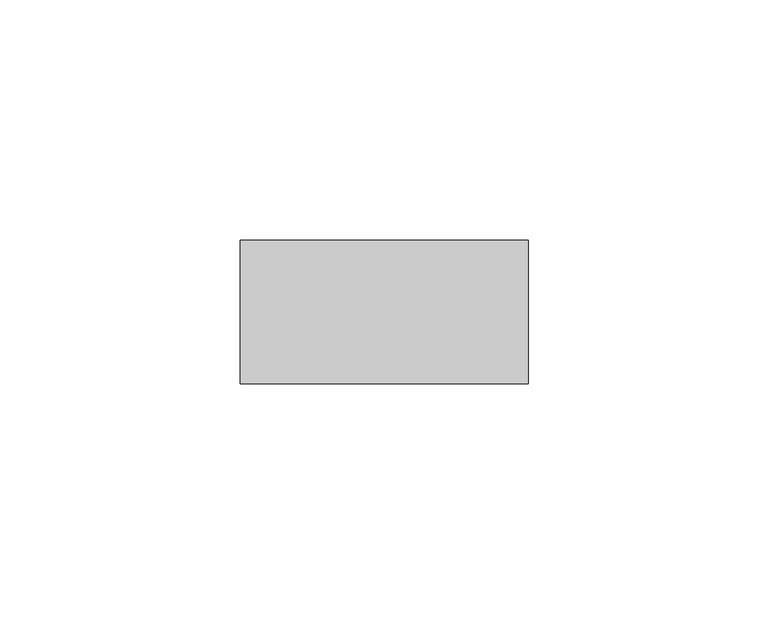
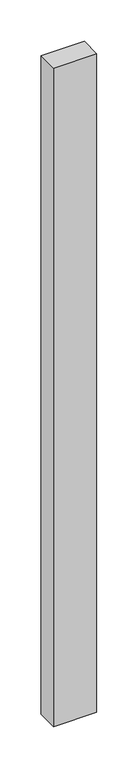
"""IFC4 building model written with IfcOpenShell, lengths in millimetres: member geometry, Прямоугольный импост : Квадрат 30 мм."""

from ifc_helpers import new_model, si_unit, frame, origin, place, context, project, spatial, polyline, outline, extrude, source, transform, mapped, element, save


def member_ad6099de(model_context):
    return source(origin(), model_context, "Body", "SweptSolid", [
        extrude(outline(polyline([(30.0, 15.0), (30.0, -15.0), (-30.0, -15.0), (-30.0, 15.0), (30.0, 15.0)])), frame((0.0, 0.0, -970.0), z_axis=(0.0, 0.0, 1.0), x_axis=(1.0, 0.0, 0.0)), (0.0, 0.0, 1.0), 970.0),
    ])


if __name__ == "__main__":
    model = new_model("IFC4")
    model_context = context("Model", 3, world=origin())
    ifc_project = project(units=[si_unit("LENGTHUNIT", "METRE", prefix="MILLI")], contexts=[model_context])
    site = spatial("IfcSite", under=ifc_project)
    building = spatial("IfcBuilding", under=site)
    placement = place(None, origin())
    member_shape = member_ad6099de(model_context)
    element("IfcMember", 1, ObjectType="Прямоугольный импост : Квадрат 30 мм", at=placement, inside=building, context=model_context, shape_type="MappedRepresentation", body=[
        mapped(member_shape, transform((0.0, 0.0, 0.0), x_axis=(1.0, 0.0, 0.0), y_axis=(0.0, 1.0, 0.0), z_axis=(0.0, 0.0, 1.0))),
    ])
    save(model, "model.ifc")
